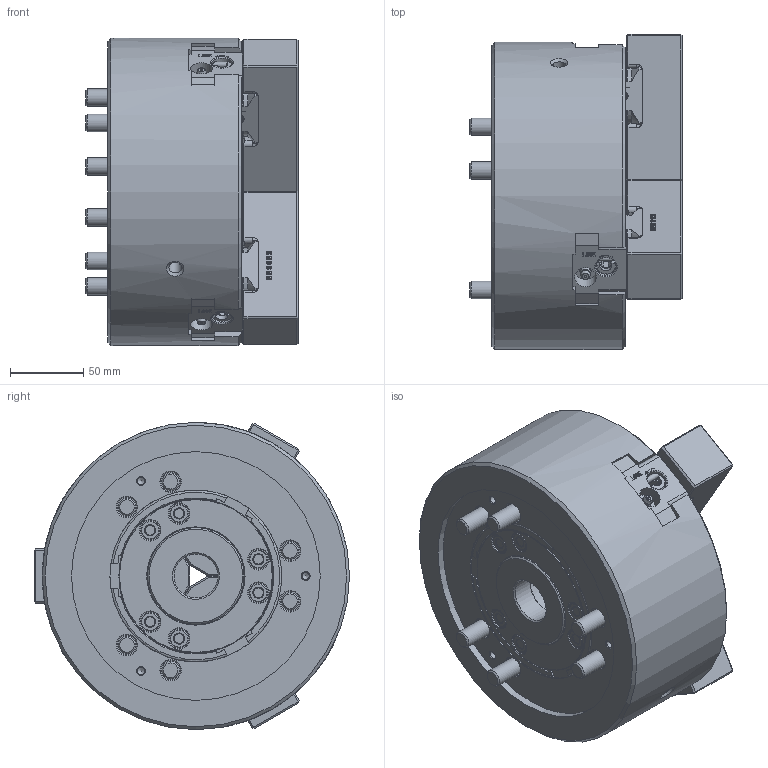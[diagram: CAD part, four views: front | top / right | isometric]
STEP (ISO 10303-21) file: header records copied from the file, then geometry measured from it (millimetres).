
FILE_DESCRIPTION (( 'STEP AP214' ), '1' );
FILE_NAME ('DT1_QB308_OUTSIDE_VIEW_OC.STEP', '2024-05-16T00:21:46', ( '' ), ( '' ), 'SwSTEP 2.0', 'SolidWorks 2022', '' );
FILE_SCHEMA (( 'AUTOMOTIVE_DESIGN' ));
Length unit declared in the file: millimetre
Products named in the file (7): Part1^DT1_QB308_ﾃﾞﾌｫﾙﾄ; DT1_QB308_OUTSIDE_VIEW_OC; DT1_QB308_DRAWNUT^DT1_QB308_ﾃﾞﾌｫﾙﾄ; DT1_QB308_M12x90^DT1_QB308_ﾃﾞﾌｫﾙﾄ; DT1_QB308_COVER^DT1_QB308_ﾃﾞﾌｫﾙﾄ; DT1_QB308_M5x10^DT1_QB308_ﾃﾞﾌｫﾙﾄ; DT1_QB308_SOFTJAW^DT1_QB308_ﾃﾞﾌｫﾙﾄ
Assembly tree (15 placements, depth 2):
  DT1_QB308_OUTSIDE_VIEW_OC
    DT1_QB308_SOFTJAW^DT1_QB308_ﾃﾞﾌｫﾙﾄ  x3
    DT1_QB308_DRAWNUT^DT1_QB308_ﾃﾞﾌｫﾙﾄ
    DT1_QB308_COVER^DT1_QB308_ﾃﾞﾌｫﾙﾄ
    DT1_QB308_M5x10^DT1_QB308_ﾃﾞﾌｫﾙﾄ  x3
    DT1_QB308_M12x90^DT1_QB308_ﾃﾞﾌｫﾙﾄ  x6
    Part1^DT1_QB308_ﾃﾞﾌｫﾙﾄ
Bounding box: 145 x 215.3 x 210 mm (x, y, z)
Volume: 3259108.7 mm3; surface area: 311222.7 mm2
Topology: 15 solids, 15 shells, 2411 faces, 6257 edges, 4060 vertices
Faces by surface type: plane 1224, bspline 646, cone 252, cylinder 250, torus 36, sphere 3
Full cylindrical faces by diameter (mm): 2 x3, 4 x3, 4.2 x12, 5 x6, 5.5 x3, 6 x6, 8 x6, 8.5 x2, 9.5 x3, 10 x3, 12 x6, 13 x6, 13.5 x6, 13.8 x3, 14 x9, 14.2 x3, 15 x3, 18 x6, 18.27 x6, 20 x6, 30 x1, 52 x1, 56 x2, 61 x1, 64.8 x2, 66 x2, 72 x2, 105.2 x1, 117.5 x1, 170 x1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
Entity records: 72072 total; most frequent: CARTESIAN_POINT 31483, ORIENTED_EDGE 8946, DIRECTION 6726, EDGE_CURVE 4473, VERTEX_POINT 3014, VECTOR 2396, LINE 2396, EDGE_LOOP 2205
